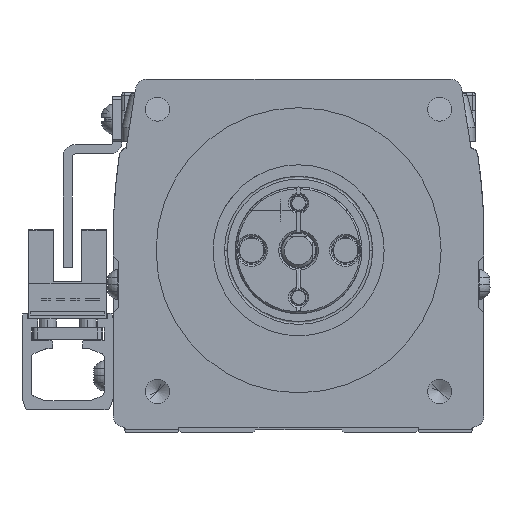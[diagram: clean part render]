
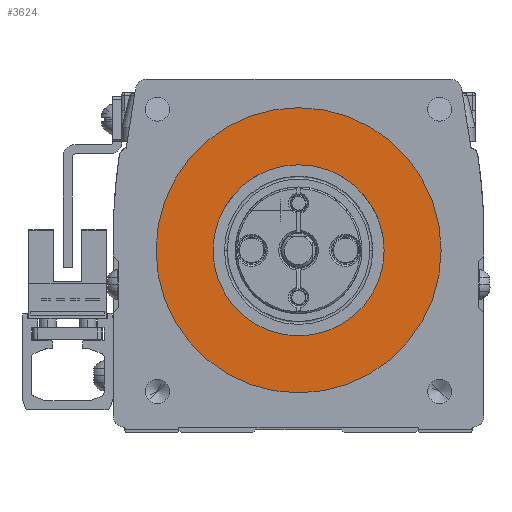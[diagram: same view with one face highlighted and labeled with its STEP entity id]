
A CAD part, left-side view. The second image highlights one B-rep face of the part: STEP entity #3624.
In plain terms, the highlighted planar face has unit normal (-1, 0, 0).
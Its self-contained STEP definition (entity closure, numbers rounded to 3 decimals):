
#3624=ADVANCED_FACE('',(#6459,#6460),#6461,.F.);
#6459=FACE_BOUND('',#12414,.T.);
#6460=FACE_OUTER_BOUND('',#12415,.T.);
#6461=PLANE('',#12416);
#12414=EDGE_LOOP('',(#20604,#20605));
#12415=EDGE_LOOP('',(#20606,#20607));
#12416=AXIS2_PLACEMENT_3D('',#20608,#20609,#20610);
#20604=ORIENTED_EDGE('',*,*,#43015,.T.);
#20605=ORIENTED_EDGE('',*,*,#43113,.T.);
#20606=ORIENTED_EDGE('',*,*,#43146,.T.);
#20607=ORIENTED_EDGE('',*,*,#43007,.T.);
#20608=CARTESIAN_POINT('',(-76.5,0.,0.));
#20609=DIRECTION('',(1.0,0.,0.));
#20610=DIRECTION('',(0.,1.0,0.));
#43007=EDGE_CURVE('',#50300,#50297,#50301,.T.);
#43015=EDGE_CURVE('',#50314,#50311,#50315,.T.);
#43113=EDGE_CURVE('',#50311,#50314,#50476,.T.);
#43146=EDGE_CURVE('',#50297,#50300,#50533,.T.);
#50297=VERTEX_POINT('',#62363);
#50300=VERTEX_POINT('',#62367);
#50301=CIRCLE('',#62368,25.0);
#50311=VERTEX_POINT('',#62403);
#50314=VERTEX_POINT('',#62407);
#50315=CIRCLE('',#62408,15.0);
#50476=CIRCLE('',#62690,15.0);
#50533=CIRCLE('',#62826,25.0);
#62363=CARTESIAN_POINT('',(-76.5,25.,0.));
#62367=CARTESIAN_POINT('',(-76.5,-25.,0.));
#62368=AXIS2_PLACEMENT_3D('',#80833,#80834,#80835);
#62403=CARTESIAN_POINT('',(-76.5,15.0,0.));
#62407=CARTESIAN_POINT('',(-76.5,-15.,0.));
#62408=AXIS2_PLACEMENT_3D('',#80843,#80844,#80845);
#62690=AXIS2_PLACEMENT_3D('',#81003,#81004,#81005);
#62826=AXIS2_PLACEMENT_3D('',#81060,#81061,#81062);
#80833=CARTESIAN_POINT('',(-76.5,0.,0.));
#80834=DIRECTION('',(-1.0,0.,0.));
#80835=DIRECTION('',(0.,1.0,0.));
#80843=CARTESIAN_POINT('',(-76.5,0.,0.));
#80844=DIRECTION('',(1.0,0.,0.));
#80845=DIRECTION('',(0.,1.0,0.));
#81003=CARTESIAN_POINT('',(-76.5,0.,0.));
#81004=DIRECTION('',(1.0,0.,0.));
#81005=DIRECTION('',(0.,1.0,0.));
#81060=CARTESIAN_POINT('',(-76.5,0.,0.));
#81061=DIRECTION('',(-1.0,0.,0.));
#81062=DIRECTION('',(0.,1.0,0.));
